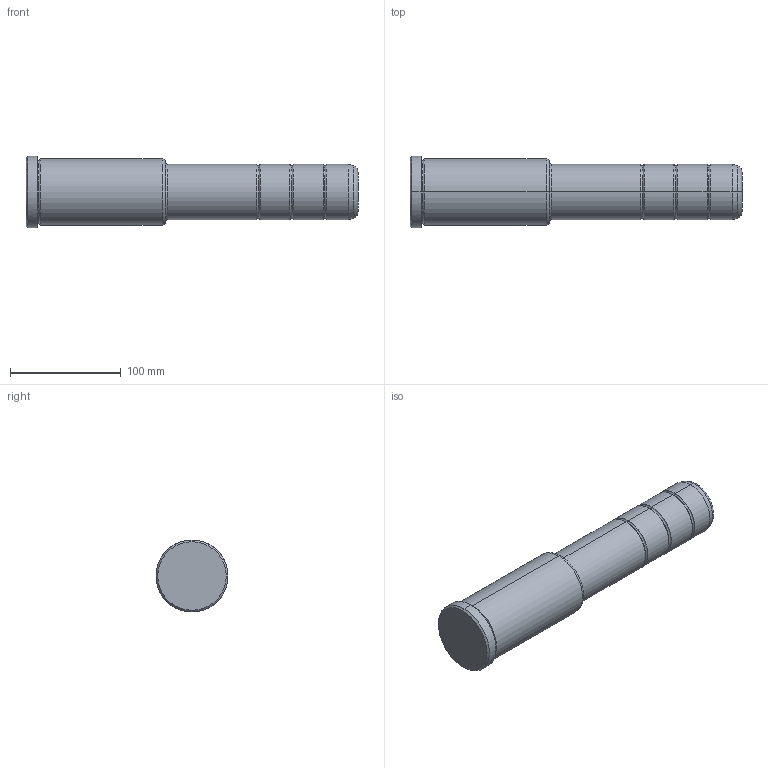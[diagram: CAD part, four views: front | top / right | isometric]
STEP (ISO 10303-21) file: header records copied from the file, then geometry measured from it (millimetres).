
FILE_DESCRIPTION(('CATIA V5 STEP Exchange'),'2;1');
FILE_NAME('C:\Users\Utente\Desktop\IO LAVORO\3D X SITO CF\X SITO\PLASTICA\351\351-50X126X300.stp','2021-11-03T19:40:24+00:00',('none'),('none'),'CATIA Version 5 Release 20 GA (IN-10)','CATIA V5 STEP AP203','none');
FILE_SCHEMA(('CONFIG_CONTROL_DESIGN'));
Length unit declared in the file: millimetre
Products named in the file (1): 351-50X126X300
Bounding box: 300 x 65 x 65 mm (x, y, z)
Volume: 697886.1 mm3; surface area: 57746.9 mm2
Topology: 1 solids, 1 shells, 41 faces, 114 edges, 76 vertices
Faces by surface type: torus 22, cylinder 12, cone 4, plane 3
Entity records: 1378 total; most frequent: CARTESIAN_POINT 288, ORIENTED_EDGE 228, DIRECTION 192, AXIS2_PLACEMENT_3D 136, EDGE_CURVE 114, CIRCLE 94, VERTEX_POINT 76, EDGE_LOOP 42
